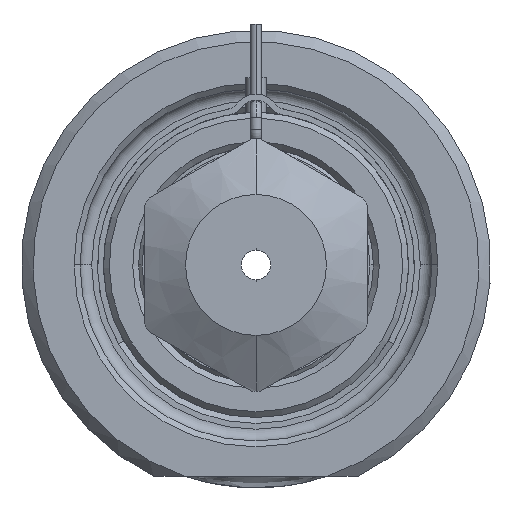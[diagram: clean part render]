
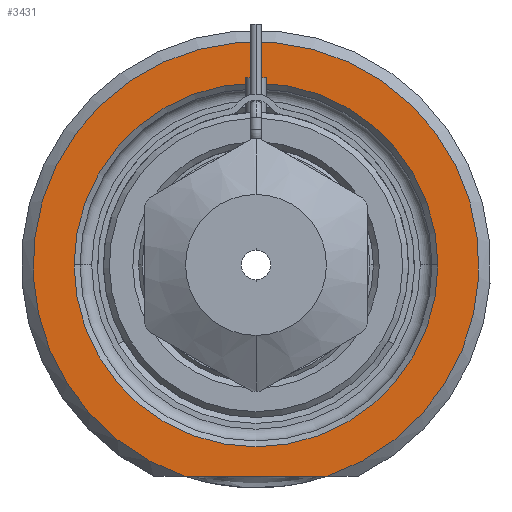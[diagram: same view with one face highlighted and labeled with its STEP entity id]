
A CAD part, front view. The second image highlights one B-rep face of the part: STEP entity #3431.
In plain terms, the highlighted planar face has unit normal (0, -1, 0).
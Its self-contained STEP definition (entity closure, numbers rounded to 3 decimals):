
#1=DIRECTION('',(1.,0.,0.));
#2=VECTOR('',#1,12.166);
#3=CARTESIAN_POINT('',(-6.083,0.,-18.));
#4=LINE('',#3,#2);
#5=CARTESIAN_POINT('',(0.,0.,0.));
#6=DIRECTION('',(0.,1.,0.));
#7=DIRECTION('',(-1.,0.,0.));
#8=AXIS2_PLACEMENT_3D('',#5,#6,#7);
#10=CARTESIAN_POINT('',(0.,0.,0.));
#11=DIRECTION('',(0.,1.,0.));
#12=DIRECTION('',(1.,0.,0.));
#13=AXIS2_PLACEMENT_3D('',#10,#11,#12);
#264=CARTESIAN_POINT('',(0.,0.,0.));
#265=DIRECTION('',(0.,-1.,0.));
#266=DIRECTION('',(0.32,0.,-0.947));
#267=AXIS2_PLACEMENT_3D('',#264,#265,#266);
#2875=CARTESIAN_POINT('',(-15.5,0.,0.));
#2876=CARTESIAN_POINT('',(15.5,0.,0.));
#2877=VERTEX_POINT('',#2875);
#2878=VERTEX_POINT('',#2876);
#2933=CARTESIAN_POINT('',(-6.083,0.,-18.));
#2934=CARTESIAN_POINT('',(6.083,0.,-18.));
#2935=VERTEX_POINT('',#2933);
#2936=VERTEX_POINT('',#2934);
#3414=CARTESIAN_POINT('',(0.,0.,0.));
#3415=DIRECTION('',(0.,-1.,0.));
#3416=DIRECTION('',(1.,0.,0.));
#3417=AXIS2_PLACEMENT_3D('',#3414,#3415,#3416);
#3418=PLANE('',#3417);
#3420=ORIENTED_EDGE('',*,*,#3419,.F.);
#3422=ORIENTED_EDGE('',*,*,#3421,.F.);
#3423=EDGE_LOOP('',(#3420,#3422));
#3424=FACE_OUTER_BOUND('',#3423,.F.);
#3426=ORIENTED_EDGE('',*,*,#3425,.F.);
#3428=ORIENTED_EDGE('',*,*,#3427,.F.);
#3429=EDGE_LOOP('',(#3426,#3428));
#3430=FACE_BOUND('',#3429,.F.);
#3431=ADVANCED_FACE('',(#3424,#3430),#3418,.T.);
#9=CIRCLE('',#8,15.5);
#14=CIRCLE('',#13,15.5);
#268=CIRCLE('',#267,19.);
#3419=EDGE_CURVE('',#2935,#2936,#4,.T.);
#3421=EDGE_CURVE('',#2936,#2935,#268,.T.);
#3425=EDGE_CURVE('',#2877,#2878,#9,.T.);
#3427=EDGE_CURVE('',#2878,#2877,#14,.T.);
